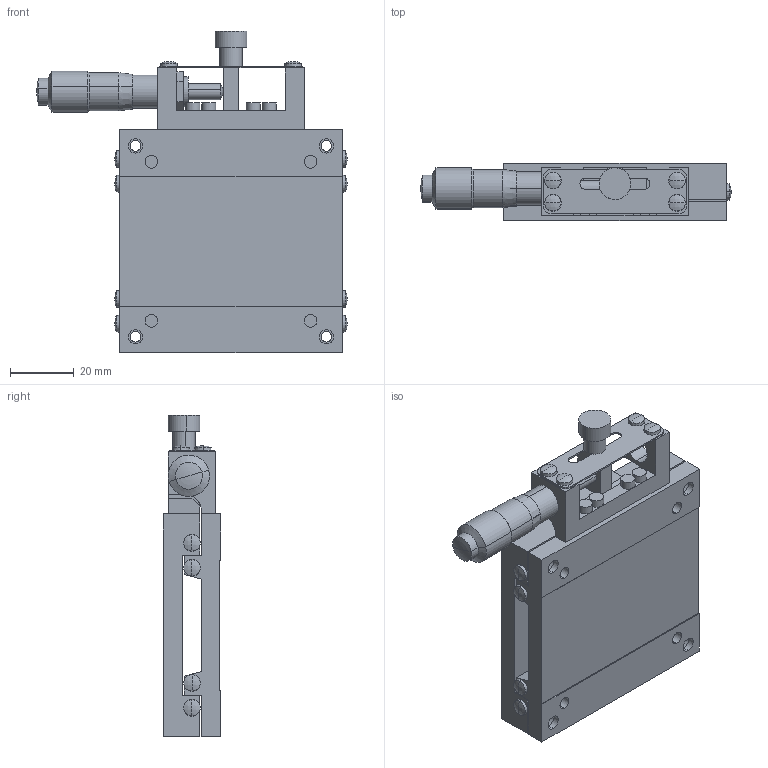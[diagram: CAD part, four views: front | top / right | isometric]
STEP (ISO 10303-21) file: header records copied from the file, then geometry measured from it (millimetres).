
FILE_DESCRIPTION (( 'STEP AP214' ), '1' );
FILE_NAME ('LS‐7041‐SR1‐2.STEP', '2007-08-28T06:50:05', ( '' ), ( '' ), 'SwSTEP 2.0', 'SolidWorks 2006303', '' );
FILE_SCHEMA (( 'AUTOMOTIVE_DESIGN' ));
Length unit declared in the file: millimetre
Products named in the file (3): LS70R120－2_ﾃﾞﾌｫﾙﾄ; LS‐7041‐SR1‐2; LS70R120－1_ﾃﾞﾌｫﾙﾄ
Assembly tree (2 placements, depth 2):
  LS‐7041‐SR1‐2
    LS70R120－2_ﾃﾞﾌｫﾙﾄ
    LS70R120－1_ﾃﾞﾌｫﾙﾄ
Bounding box: 97.5 x 18 x 101 mm (x, y, z)
Volume: 81907.3 mm3; surface area: 35359 mm2
Topology: 3 solids, 5 shells, 252 faces, 623 edges, 396 vertices
Faces by surface type: plane 101, cylinder 93, cone 30, sphere 26, torus 2
Entity records: 7661 total; most frequent: DIRECTION 1425, CARTESIAN_POINT 1274, ORIENTED_EDGE 1242, EDGE_CURVE 621, AXIS2_PLACEMENT_3D 547, VERTEX_POINT 396, VECTOR 331, LINE 331
